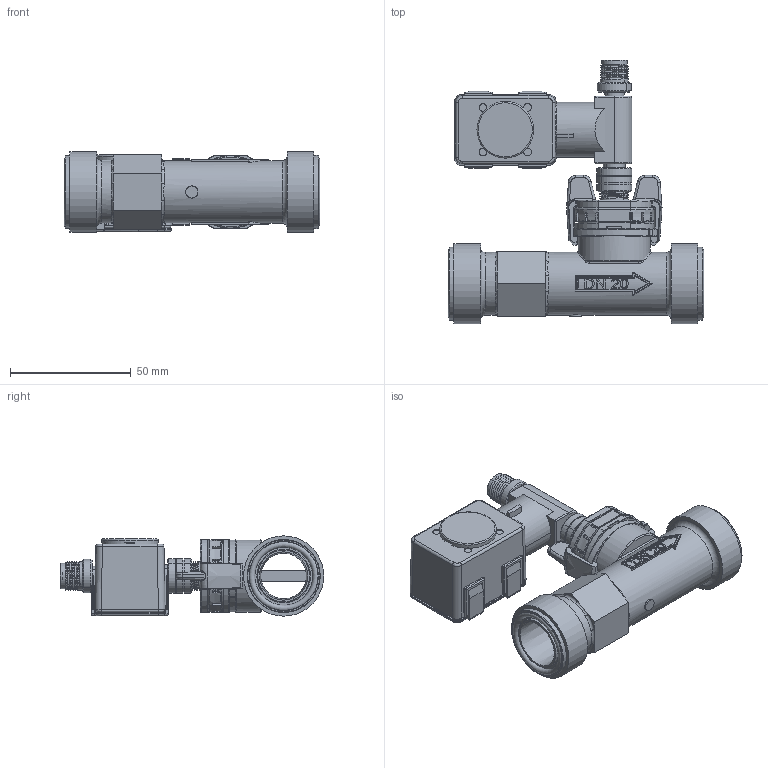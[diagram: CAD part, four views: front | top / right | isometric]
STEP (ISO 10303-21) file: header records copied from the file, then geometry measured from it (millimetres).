
FILE_DESCRIPTION(/* description */ (''),/* implementation_level */ '2;1');
FILE_NAME(/* name */ '212_x20xxxxxK.stp',/* time_stamp */ '2020-08-04T11:40:13+02:00',/* author */ (''),/* organization */ (''),/* preprocessor_version */ 'ST-DEVELOPER v16.7',/* originating_system */ 'SIEMENS PLM Software NX 12.0',/* authorisation */ '');
FILE_SCHEMA (('AUTOMOTIVE_DESIGN { 1 0 10303 214 3 1 1 1 }'));
Products named in the file (1): model1
Bounding box: 105.92 x 109.2 x 33.25 mm (x, y, z)
Volume: 104253.4 mm3; surface area: 53454.6 mm2
Topology: 8 solids, 13 shells, 1599 faces, 4252 edges, 2683 vertices
Faces by surface type: plane 633, cylinder 450, extrusion 152, torus 115, cone 109, bspline 106, sphere 34
Full cylindrical faces by diameter (mm): 1 x5, 3.234 x4, 5 x1, 5.76 x1, 6.7 x1, 7.98 x2, 8.15 x1, 8.98 x3, 9.05 x1, 9.25 x1, 10 x1, 10.4 x1, 10.6 x1, 11.6 x1, 15.22 x1, 15.4 x1, 16.093 x1, 19 x1, 19.707 x1, 21.7 x2, 23.426 x1, 26 x2, 28.5 x2, 30 x1, 30.25 x2, 33.249 x2
Entity records: 69062 total; most frequent: CARTESIAN_POINT 22590, ORIENTED_EDGE 8116, DIRECTION 7259, EDGE_CURVE 4058, AXIS2_PLACEMENT_3D 2688, VERTEX_POINT 2629, VECTOR 1883, EDGE_LOOP 1803
